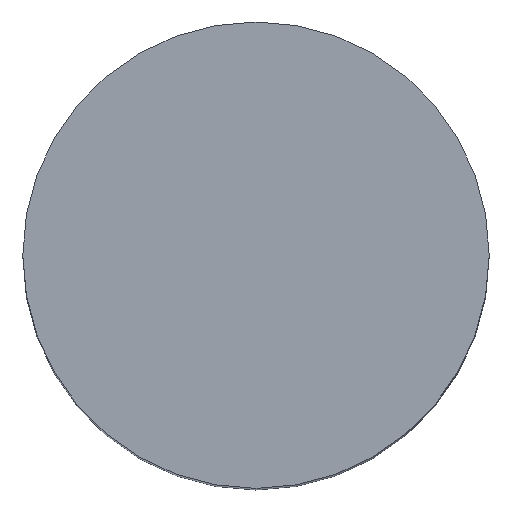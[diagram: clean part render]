
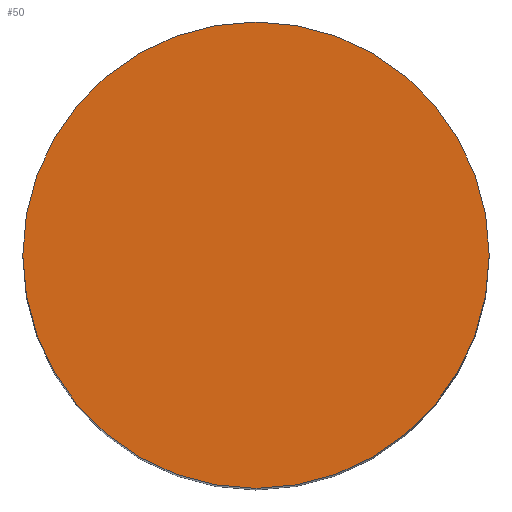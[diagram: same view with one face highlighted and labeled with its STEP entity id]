
A CAD part, top view. The second image highlights one B-rep face of the part: STEP entity #50.
In plain terms, the highlighted planar face has unit normal (0, 0, 1).
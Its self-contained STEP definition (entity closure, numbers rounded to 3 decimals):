
#17 = PLANE ( 'NONE',  #66 ) ;
#41 = VERTEX_POINT ( 'NONE', #292 ) ;
#50 = ADVANCED_FACE ( 'NONE', ( #309 ), #17, .F. ) ;
#65 = DIRECTION ( 'NONE',  ( 1., 0., 0. ) ) ;
#66 = AXIS2_PLACEMENT_3D ( 'NONE', #210, #380, #70 ) ;
#70 = DIRECTION ( 'NONE',  ( -1., 0., 0. ) ) ;
#71 = CARTESIAN_POINT ( 'NONE',  ( 2.5, 0., 0. ) ) ;
#88 = DIRECTION ( 'NONE',  ( 1., 0., 0. ) ) ;
#117 = EDGE_LOOP ( 'NONE', ( #224, #319 ) ) ;
#154 = CARTESIAN_POINT ( 'NONE',  ( 0., 0., 0. ) ) ;
#155 = AXIS2_PLACEMENT_3D ( 'NONE', #212, #193, #65 ) ;
#163 = CIRCLE ( 'NONE', #327, 2.5 ) ;
#173 = DIRECTION ( 'NONE',  ( 0., 0., 1. ) ) ;
#175 = EDGE_CURVE ( 'NONE', #322, #41, #375, .T. ) ;
#193 = DIRECTION ( 'NONE',  ( 0., 0., 1. ) ) ;
#210 = CARTESIAN_POINT ( 'NONE',  ( 2.5, 0., 0. ) ) ;
#212 = CARTESIAN_POINT ( 'NONE',  ( 0., 0., 0. ) ) ;
#213 = EDGE_CURVE ( 'NONE', #41, #322, #163, .T. ) ;
#224 = ORIENTED_EDGE ( 'NONE', *, *, #175, .T. ) ;
#292 = CARTESIAN_POINT ( 'NONE',  ( -2.5, 0., 0. ) ) ;
#309 = FACE_OUTER_BOUND ( 'NONE', #117, .T. ) ;
#319 = ORIENTED_EDGE ( 'NONE', *, *, #213, .T. ) ;
#322 = VERTEX_POINT ( 'NONE', #71 ) ;
#327 = AXIS2_PLACEMENT_3D ( 'NONE', #154, #173, #88 ) ;
#375 = CIRCLE ( 'NONE', #155, 2.5 ) ;
#380 = DIRECTION ( 'NONE',  ( 0., 0., -1. ) ) ;
